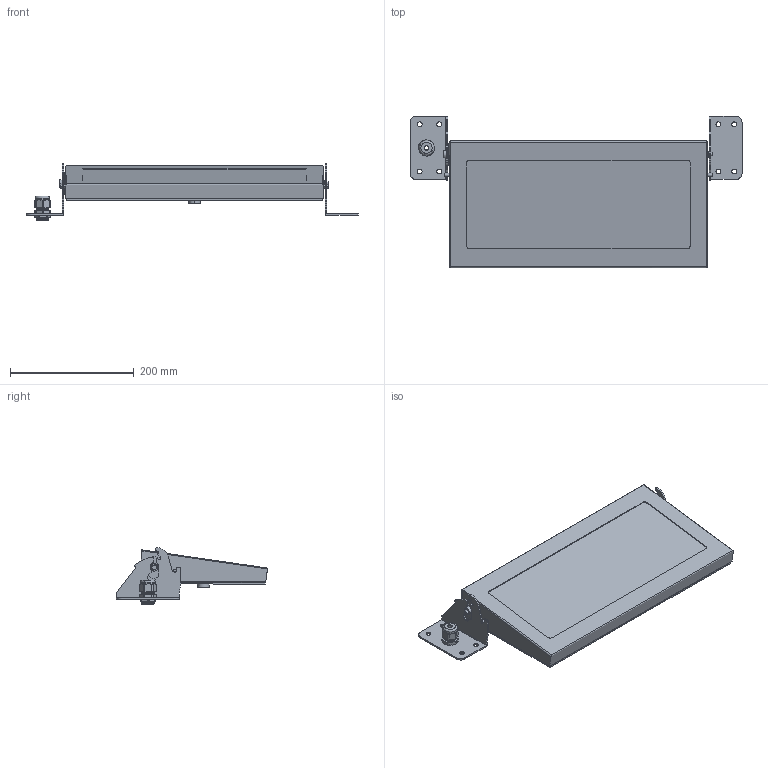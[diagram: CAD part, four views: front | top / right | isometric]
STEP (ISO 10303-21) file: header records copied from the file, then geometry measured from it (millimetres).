
FILE_DESCRIPTION (( 'STEP AP214' ), '1' );
FILE_NAME ('KB-xx-WMT-( ) Wallmount Keyboard in Low Stowed Position.STEP', '2017-07-10T20:45:27', ( '' ), ( '' ), 'SwSTEP 2.0', 'SolidWorks 2017', '' );
FILE_SCHEMA (( 'AUTOMOTIVE_DESIGN' ));
Length unit declared in the file: inch
Products named in the file (5): Fitting, 30411 ; Bracket, 10756; Bracket, 10755; Keyboard Enclosure, KB-xx-WMT; KB-xx-WMT-( ) Wallmount Keyboard in Low Stowed Position
Assembly tree (4 placements, depth 2):
  KB-xx-WMT-( ) Wallmount Keyboard in Low Stowed Position
    Keyboard Enclosure, KB-xx-WMT
    Bracket, 10755
    Bracket, 10756
    Fitting, 30411 
Bounding box: 536.19 x 244.16 x 91.25 mm (x, y, z)
Volume: 3414489.2 mm3; surface area: 272976.6 mm2
Topology: 4 solids, 5 shells, 304 faces, 786 edges, 500 vertices
Faces by surface type: cylinder 164, plane 113, cone 14, sphere 5, torus 4, bspline 4
Entity records: 12724 total; most frequent: CARTESIAN_POINT 4797, DIRECTION 1598, ORIENTED_EDGE 1560, EDGE_CURVE 780, AXIS2_PLACEMENT_3D 604, VERTEX_POINT 498, LINE 390, VECTOR 390
